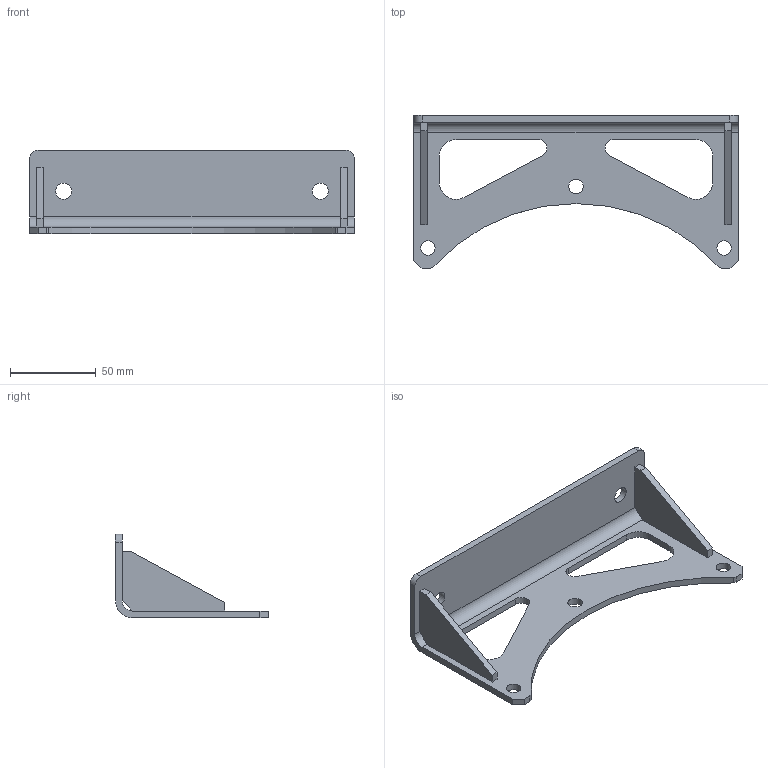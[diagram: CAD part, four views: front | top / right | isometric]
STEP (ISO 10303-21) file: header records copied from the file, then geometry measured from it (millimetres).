
FILE_DESCRIPTION(/* description */ ('PIED 1','CAx-IF Rec.Pracs.---Representation and Presentation of Product Manufacturing Information (PMI)---4.0---2014-10-13'),/* implementation_level */ '2;1');
FILE_NAME(/* name */ 'vv340037-A.stp',/* time_stamp */ '2025-09-24T13:43:18+02:00',/* author */ ('eraynal'),/* organization */ (''),/* preprocessor_version */ 'ST-DEVELOPER v20',/* originating_system */ 'Autodesk Inventor 2025',/* authorisation */ '');
FILE_SCHEMA (('AP242_MANAGED_MODEL_BASED_3D_ENGINEERING_MIM_LF { 1 0 10303 442 1 1 4 }'));
Length unit declared in the file: millimetre
Products named in the file (1): VICTOR.V.34.00.37
Bounding box: 190 x 89.5 x 49 mm (x, y, z)
Volume: 78729.2 mm3; surface area: 45166.1 mm2
Topology: 3 solids, 3 shells, 51 faces, 135 edges, 90 vertices
Faces by surface type: plane 35, cylinder 16
Full cylindrical faces by diameter (mm): 8.5 x3, 9.5 x2
Entity records: 1968 total; most frequent: CARTESIAN_POINT 387, DIRECTION 301, ORIENTED_EDGE 270, EDGE_CURVE 135, LINE 103, VECTOR 103, AXIS2_PLACEMENT_3D 99, VERTEX_POINT 90
